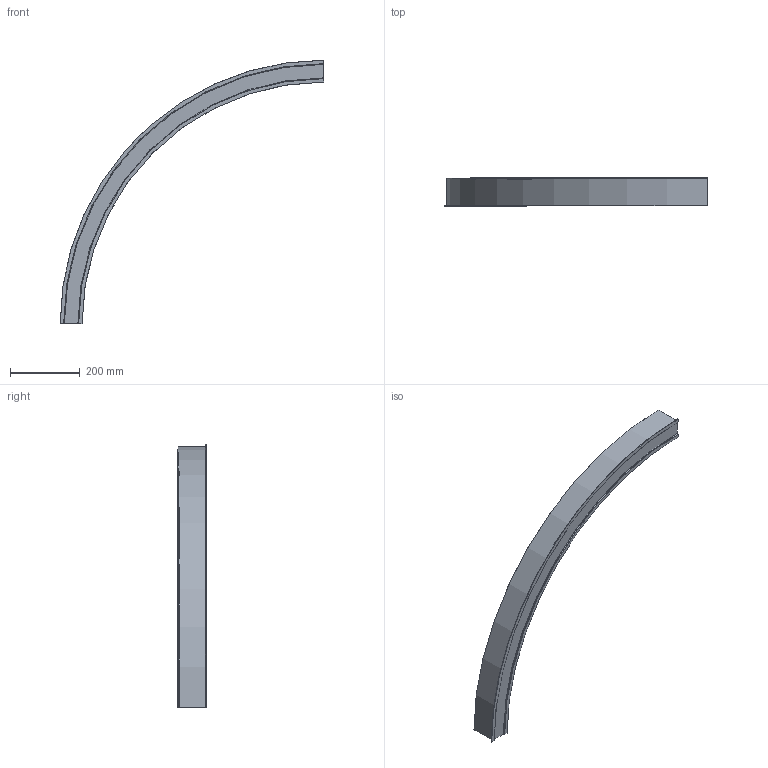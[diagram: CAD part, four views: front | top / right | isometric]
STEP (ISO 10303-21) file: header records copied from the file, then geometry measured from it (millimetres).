
FILE_DESCRIPTION (( 'STEP AP203' ), '1' );
FILE_NAME ('mLight_Swerve 47 Recessed_R725 mm 90 deg.STEP', '2020-04-01T10:09:22', ( '' ), ( '' ), 'SwSTEP 2.0', 'SolidWorks 2017', '' );
FILE_SCHEMA (( 'CONFIG_CONTROL_DESIGN' ));
Length unit declared in the file: millimetre
Products named in the file (1): mLight_Swerve 47 Recessed_R725 mm 90 deg
Bounding box: 756.5 x 80.63 x 756.5 mm (x, y, z)
Volume: 4135075.6 mm3; surface area: 358032.9 mm2
Topology: 1 solids, 1 shells, 54 faces, 156 edges, 104 vertices
Faces by surface type: torus 28, plane 12, cylinder 8, cone 6
Entity records: 1925 total; most frequent: DIRECTION 374, CARTESIAN_POINT 315, ORIENTED_EDGE 312, AXIS2_PLACEMENT_3D 163, EDGE_CURVE 156, CIRCLE 108, VERTEX_POINT 104, EDGE_LOOP 54
